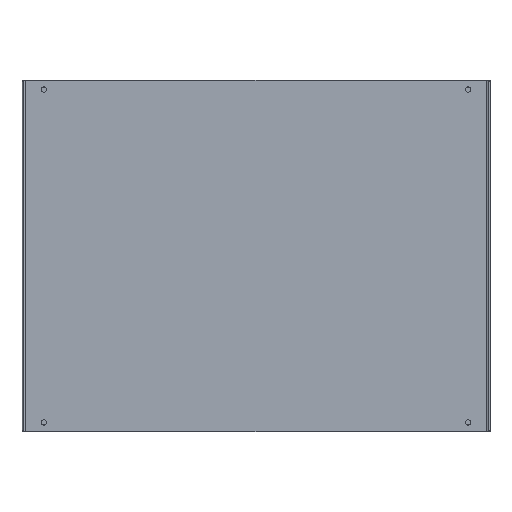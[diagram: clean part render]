
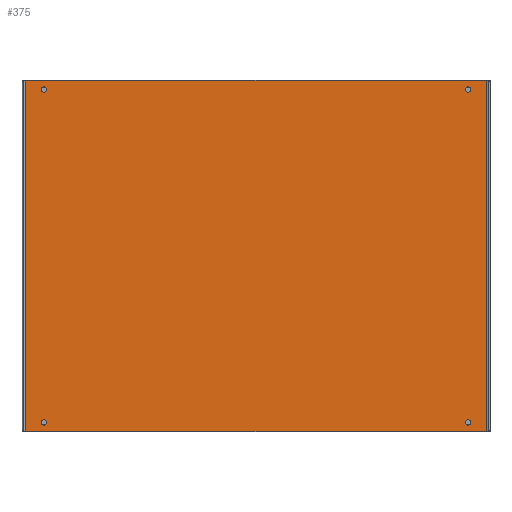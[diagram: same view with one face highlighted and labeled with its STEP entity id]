
A CAD part, left-side view. The second image highlights one B-rep face of the part: STEP entity #375.
In plain terms, the highlighted planar face has unit normal (-1, 0, 0).
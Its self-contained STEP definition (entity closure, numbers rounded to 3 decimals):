
#375=ADVANCED_FACE('',(#1312,#1313,#1314,#1315,#1316),#1317,.T.);
#1312=FACE_BOUND('',#2662,.T.);
#1313=FACE_BOUND('',#2663,.T.);
#1314=FACE_BOUND('',#2664,.T.);
#1315=FACE_BOUND('',#2665,.T.);
#1316=FACE_OUTER_BOUND('',#2666,.T.);
#1317=PLANE('',#2667);
#2662=EDGE_LOOP('',(#5921,#5922));
#2663=EDGE_LOOP('',(#5923,#5924));
#2664=EDGE_LOOP('',(#5925,#5926));
#2665=EDGE_LOOP('',(#5927,#5928));
#2666=EDGE_LOOP('',(#5929,#5930,#5931,#5932));
#2667=AXIS2_PLACEMENT_3D('',#5933,#5934,#5935);
#5921=ORIENTED_EDGE('',*,*,#8652,.T.);
#5922=ORIENTED_EDGE('',*,*,#8391,.T.);
#5923=ORIENTED_EDGE('',*,*,#8654,.T.);
#5924=ORIENTED_EDGE('',*,*,#8387,.T.);
#5925=ORIENTED_EDGE('',*,*,#8656,.T.);
#5926=ORIENTED_EDGE('',*,*,#8383,.T.);
#5927=ORIENTED_EDGE('',*,*,#8658,.T.);
#5928=ORIENTED_EDGE('',*,*,#8379,.T.);
#5929=ORIENTED_EDGE('',*,*,#9129,.T.);
#5930=ORIENTED_EDGE('',*,*,#9130,.F.);
#5931=ORIENTED_EDGE('',*,*,#9131,.T.);
#5932=ORIENTED_EDGE('',*,*,#9127,.T.);
#5933=CARTESIAN_POINT('',(-297.0,0.0,300.0));
#5934=DIRECTION('',(-1.0,0.0,0.));
#5935=DIRECTION('',(0.0,1.0,0.0));
#8379=EDGE_CURVE('',#10064,#10068,#10070,.T.);
#8383=EDGE_CURVE('',#10072,#10076,#10078,.T.);
#8387=EDGE_CURVE('',#10080,#10084,#10086,.T.);
#8391=EDGE_CURVE('',#10088,#10092,#10094,.T.);
#8652=EDGE_CURVE('',#10092,#10088,#10507,.T.);
#8654=EDGE_CURVE('',#10084,#10080,#10509,.T.);
#8656=EDGE_CURVE('',#10076,#10072,#10511,.T.);
#8658=EDGE_CURVE('',#10068,#10064,#10513,.T.);
#9127=EDGE_CURVE('',#11255,#11253,#11256,.T.);
#9129=EDGE_CURVE('',#11253,#11258,#11259,.T.);
#9130=EDGE_CURVE('',#11260,#11258,#11261,.T.);
#9131=EDGE_CURVE('',#11260,#11255,#11262,.T.);
#10064=VERTEX_POINT('',#12739);
#10068=VERTEX_POINT('',#12744);
#10070=CIRCLE('',#12747,4.5);
#10072=VERTEX_POINT('',#12749);
#10076=VERTEX_POINT('',#12754);
#10078=CIRCLE('',#12757,4.5);
#10080=VERTEX_POINT('',#12759);
#10084=VERTEX_POINT('',#12764);
#10086=CIRCLE('',#12767,4.5);
#10088=VERTEX_POINT('',#12769);
#10092=VERTEX_POINT('',#12774);
#10094=CIRCLE('',#12777,4.5);
#10507=CIRCLE('',#14314,4.5);
#10509=CIRCLE('',#14316,4.5);
#10511=CIRCLE('',#14318,4.5);
#10513=CIRCLE('',#14320,4.5);
#11253=VERTEX_POINT('',#15486);
#11255=VERTEX_POINT('',#15489);
#11256=LINE('',#15490,#15491);
#11258=VERTEX_POINT('',#15494);
#11259=LINE('',#15495,#15496);
#11260=VERTEX_POINT('',#15497);
#11261=LINE('',#15498,#15499);
#11262=LINE('',#15500,#15501);
#12739=CARTESIAN_POINT('',(-297.0,-362.5,280.0));
#12744=CARTESIAN_POINT('',(-297.0,-362.5,289.0));
#12747=AXIS2_PLACEMENT_3D('',#17429,#17430,#17431);
#12749=CARTESIAN_POINT('',(-297.0,362.5,280.0));
#12754=CARTESIAN_POINT('',(-297.0,362.5,289.0));
#12757=AXIS2_PLACEMENT_3D('',#17437,#17438,#17439);
#12759=CARTESIAN_POINT('',(-297.0,-362.5,-289.0));
#12764=CARTESIAN_POINT('',(-297.0,-362.5,-280.0));
#12767=AXIS2_PLACEMENT_3D('',#17445,#17446,#17447);
#12769=CARTESIAN_POINT('',(-297.0,362.5,-289.0));
#12774=CARTESIAN_POINT('',(-297.0,362.5,-280.0));
#12777=AXIS2_PLACEMENT_3D('',#17453,#17454,#17455);
#14314=AXIS2_PLACEMENT_3D('',#17812,#17813,#17814);
#14316=AXIS2_PLACEMENT_3D('',#17818,#17819,#17820);
#14318=AXIS2_PLACEMENT_3D('',#17824,#17825,#17826);
#14320=AXIS2_PLACEMENT_3D('',#17830,#17831,#17832);
#15486=CARTESIAN_POINT('',(-297.0,393.807,-300.0));
#15489=CARTESIAN_POINT('',(-297.0,393.807,300.0));
#15490=CARTESIAN_POINT('',(-297.0,393.807,300.0));
#15491=VECTOR('',#18383,1.0);
#15494=CARTESIAN_POINT('',(-297.0,-393.807,-300.0));
#15495=CARTESIAN_POINT('',(-297.0,-393.807,-300.0));
#15496=VECTOR('',#18385,1.0);
#15497=CARTESIAN_POINT('',(-297.0,-393.807,300.0));
#15498=CARTESIAN_POINT('',(-297.0,-393.807,300.0));
#15499=VECTOR('',#18386,1.0);
#15500=CARTESIAN_POINT('',(-297.0,-393.807,300.0));
#15501=VECTOR('',#18387,1.0);
#17429=CARTESIAN_POINT('',(-297.0,-362.5,284.5));
#17430=DIRECTION('',(1.0,0.0,0.));
#17431=DIRECTION('',(0.,0.0,-1.0));
#17437=CARTESIAN_POINT('',(-297.0,362.5,284.5));
#17438=DIRECTION('',(1.0,0.0,0.));
#17439=DIRECTION('',(0.,0.0,-1.0));
#17445=CARTESIAN_POINT('',(-297.0,-362.5,-284.5));
#17446=DIRECTION('',(1.0,0.0,0.));
#17447=DIRECTION('',(0.,0.0,-1.0));
#17453=CARTESIAN_POINT('',(-297.0,362.5,-284.5));
#17454=DIRECTION('',(1.0,0.0,0.));
#17455=DIRECTION('',(0.,0.0,-1.0));
#17812=CARTESIAN_POINT('',(-297.0,362.5,-284.5));
#17813=DIRECTION('',(1.0,0.0,0.));
#17814=DIRECTION('',(0.,0.0,-1.0));
#17818=CARTESIAN_POINT('',(-297.0,-362.5,-284.5));
#17819=DIRECTION('',(1.0,0.0,0.));
#17820=DIRECTION('',(0.,0.0,-1.0));
#17824=CARTESIAN_POINT('',(-297.0,362.5,284.5));
#17825=DIRECTION('',(1.0,0.0,0.));
#17826=DIRECTION('',(0.,0.0,-1.0));
#17830=CARTESIAN_POINT('',(-297.0,-362.5,284.5));
#17831=DIRECTION('',(1.0,0.0,0.));
#17832=DIRECTION('',(0.,0.0,-1.0));
#18383=DIRECTION('',(0.,0.0,-1.0));
#18385=DIRECTION('',(0.0,-1.0,0.0));
#18386=DIRECTION('',(0.,0.0,-1.0));
#18387=DIRECTION('',(0.0,1.0,0.0));
